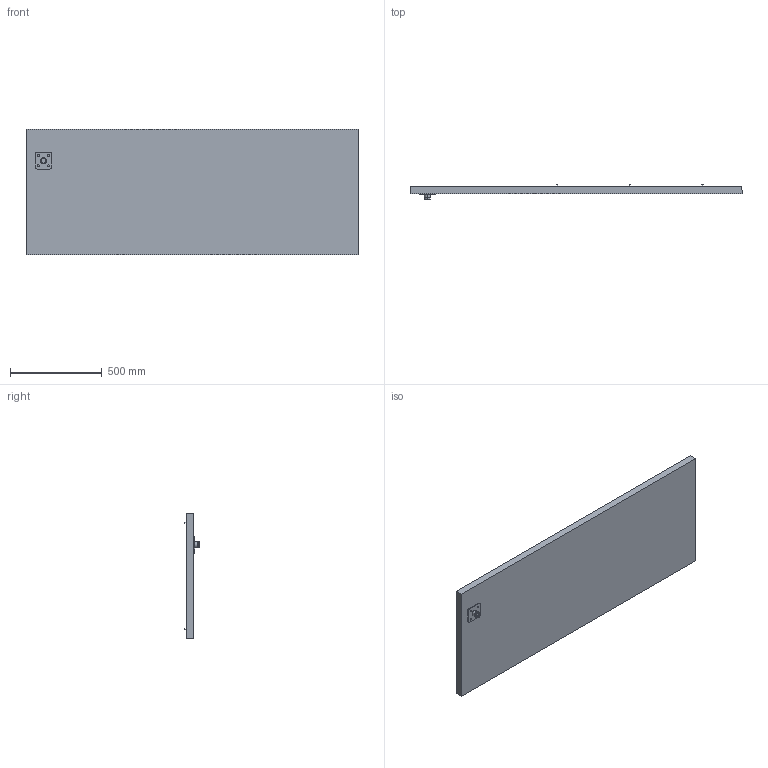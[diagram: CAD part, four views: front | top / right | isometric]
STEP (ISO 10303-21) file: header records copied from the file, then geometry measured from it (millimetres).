
FILE_DESCRIPTION (( 'STEP AP214' ), '1' );
FILE_NAME ('24R_T-SLOT_VACUUM_TABLE_RevH.STEP', '2021-04-09T16:38:06', ( 'Admin' ), ( '' ), 'SwSTEP 2.0', 'SolidWorks 2016', '' );
FILE_SCHEMA (( 'AUTOMOTIVE_DESIGN' ));
Length unit declared in the file: millimetre
Products named in the file (1): 24R_T-SLOT_VACUUM_TABLE_RevH
Bounding box: 1805 x 82 x 680 mm (x, y, z)
Volume: 46746410.8 mm3; surface area: 3493461 mm2
Topology: 1 solids, 64 shells, 5162 faces, 12110 edges, 7719 vertices
Faces by surface type: plane 3677, cylinder 699, cone 621, sphere 120, torus 33, bspline 12
Entity records: 205992 total; most frequent: CARTESIAN_POINT 29920, DIRECTION 24252, ORIENTED_EDGE 24220, EDGE_CURVE 12110, LINE 9030, VECTOR 9030, VERTEX_POINT 7719, AXIS2_PLACEMENT_3D 7611
